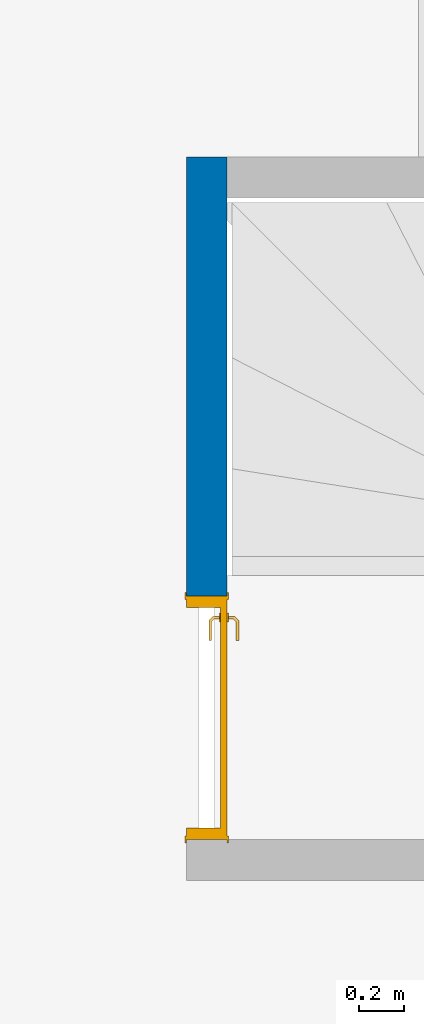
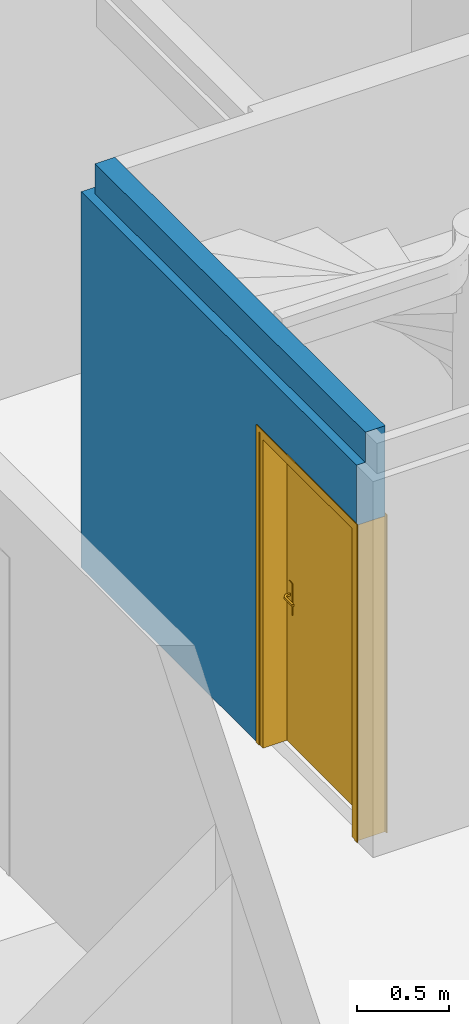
# One storey, part 14 of 24: 1 door, 1 wall, 1 opening.
"""IFC2X3 building model written with IfcOpenShell, lengths in centimetres."""

import ifcopenshell
import ifcopenshell.guid

model = None  # the IFC model being written
_history = None  # IfcOwnerHistory: only IFC2X3 demands one
_inside = {}  # id of a spatial element -> (the spatial element, [elements in it])
_under = {}  # id of a project, library or spatial element -> (it, [spatial elements below it])
_declared = {}  # id of a project -> (the project, [libraries it declares])
_typed = {}  # id of a type object -> (the type object, [elements of that type])
_made_of = {}  # id of a material, layer set ... -> (it, [elements and type objects made of it])


def new_model(schema):
    """Start an empty IFC model of exactly this schema.

    Asked for "IFC4X3", IfcOpenShell would pick the latest addendum, in which some entities
    have other attributes; the version numbers below select the first issue.
    IFC2X3 requires an IfcOwnerHistory on every rooted entity: one is made here for all.
    """
    global model, _history
    if schema == "IFC4X3":
        model = ifcopenshell.file(schema_version=(4, 3, 0, 0))
    else:
        model = ifcopenshell.file(schema=schema)
    _inside.clear()
    _under.clear()
    _declared.clear()
    _typed.clear()
    _made_of.clear()
    _history = None
    if model.schema == "IFC2X3":
        org = make("IfcOrganization", Name="unknown")
        user = make(
            "IfcPersonAndOrganization",
            ThePerson=make("IfcPerson", FamilyName="unknown"),
            TheOrganization=org,
        )
        app = make(
            "IfcApplication",
            ApplicationDeveloper=org,
            Version="unknown",
            ApplicationFullName="unknown",
            ApplicationIdentifier="unknown",
        )
        _history = make(
            "IfcOwnerHistory",
            OwningUser=user,
            OwningApplication=app,
            ChangeAction="ADDED",
            CreationDate=0,
        )
    return model


def make(cls, **values):
    """One entity of the class cls with the attributes given. An attribute that is None is left unset."""
    return model.create_entity(
        cls, **{name: value for name, value in values.items() if value is not None}
    )


def entity(cls, *values):
    """Any entity or typed value of the class cls, its attributes in the order of the schema. None: left unset."""
    e = model.create_entity(cls)
    for i, value in enumerate(values):
        if value is not None:
            e[i] = value
    return e


def rooted(cls, **values):
    """An entity with a GlobalId (a new one), such as an element, a storey or a relation."""
    return make(cls, GlobalId=ifcopenshell.guid.new(), OwnerHistory=_history, **values)


def si_unit(unit_type, name, prefix=None):
    """IfcSIUnit, for example si_unit("LENGTHUNIT", "METRE", prefix="MILLI")."""
    return make("IfcSIUnit", UnitType=unit_type, Prefix=prefix, Name=name)


def converted_unit(unit_type, name, factor, base, dimensions=None, offset=None):
    """IfcConversionBasedUnit, such as the inch: factor (a typed value) times the base unit."""
    return make(
        "IfcConversionBasedUnit"
        if offset is None
        else "IfcConversionBasedUnitWithOffset",
        ConversionOffset=offset,
        Dimensions=None
        if dimensions is None
        else entity("IfcDimensionalExponents", *dimensions),
        UnitType=unit_type,
        Name=name,
        ConversionFactor=make(
            "IfcMeasureWithUnit", ValueComponent=factor, UnitComponent=base
        ),
    )


def derived_unit(unit_type, elements):
    """IfcDerivedUnit: a product of units, each with its exponent."""
    return make(
        "IfcDerivedUnit",
        Elements=[
            make("IfcDerivedUnitElement", Unit=unit, Exponent=power)
            for unit, power in elements
        ],
        UnitType=unit_type,
    )


def assignment(units):
    """IfcUnitAssignment: the units of a project."""
    return None if units is None else make("IfcUnitAssignment", Units=units)


def point(xyz):
    """IfcCartesianPoint."""
    return None if xyz is None else make("IfcCartesianPoint", Coordinates=xyz)


def direction(xyz):
    """IfcDirection."""
    return None if xyz is None else make("IfcDirection", DirectionRatios=xyz)


def frame(location, z_axis=None, x_axis=None):
    """IfcAxis2Placement3D, a coordinate frame: its origin and axes. An axis left out is left unset."""
    return make(
        "IfcAxis2Placement3D",
        Location=point(location),
        Axis=direction(z_axis),
        RefDirection=direction(x_axis),
    )


def frame_2d(location, x_axis=None):
    """IfcAxis2Placement2D, a coordinate frame in the plane: its origin and x axis."""
    return make(
        "IfcAxis2Placement2D", Location=point(location), RefDirection=direction(x_axis)
    )


def origin():
    """The frame at (0, 0, 0) with its axes left unset."""
    return frame((0.0, 0.0, 0.0))


def place(relative_to, where):
    """IfcLocalPlacement: puts the frame where relative to a parent placement (None: the world)."""
    return make(
        "IfcLocalPlacement", PlacementRelTo=relative_to, RelativePlacement=where
    )


def context(
    kind, dimensions, precision=None, world=None, true_north=None, identifier=None
):
    """IfcGeometricRepresentationContext, for example the 3D "Model" context."""
    return make(
        "IfcGeometricRepresentationContext",
        ContextIdentifier=identifier,
        ContextType=kind,
        CoordinateSpaceDimension=dimensions,
        Precision=precision,
        WorldCoordinateSystem=world,
        TrueNorth=true_north,
    )


def subcontext(parent, identifier, kind, view, scale=None):
    """IfcGeometricRepresentationSubContext, for example "Body" below "Model"."""
    return make(
        "IfcGeometricRepresentationSubContext",
        ContextIdentifier=identifier,
        ContextType=kind,
        ParentContext=parent,
        TargetScale=scale,
        TargetView=view,
    )


def project(units=None, contexts=None):
    """IfcProject with its units and contexts."""
    return rooted(
        "IfcProject",
        Name="project",
        RepresentationContexts=contexts,
        UnitsInContext=assignment(units),
    )


def spatial(cls, under=None, at=None, **own):
    """A site, building, storey or space (cls), placed at a placement, below another one or the project."""
    s = rooted(cls, ObjectPlacement=at, **own)
    if under is not None:
        _under.setdefault(under.id(), (under, []))[1].append(s)
    return s


def profile(cls, at=None, kind="AREA", **sizes):
    """A parametric profile (cls). Its sizes go by their IFC names, for example OverallWidth=200.0."""
    return make(cls, ProfileType=kind, Position=at, **sizes)


def rectangle(**sizes):
    """IfcRectangleProfileDef."""
    return profile("IfcRectangleProfileDef", **sizes)


def extrude(swept, where, along, depth):
    """IfcExtrudedAreaSolid: the profile swept, set in the frame where, extruded along a direction by depth."""
    return make(
        "IfcExtrudedAreaSolid",
        SweptArea=swept,
        Position=where,
        ExtrudedDirection=direction(along),
        Depth=depth,
    )


def faces_of(points, faces, orient=None, outer=None):
    """IfcFace entities. A face is a list of loops; a loop is a list of indices into points, from 0.

    orient and outer hold one flag for each loop. By default every Orientation is true, the
    first loop of a face is its IfcFaceOuterBound and the others are IfcFaceBound.
    """
    made = []
    for i, loops in enumerate(faces):
        bounds = []
        for j, loop in enumerate(loops):
            is_outer = j == 0 if outer is None else outer[i][j]
            bounds.append(
                make(
                    "IfcFaceOuterBound" if is_outer else "IfcFaceBound",
                    Bound=make("IfcPolyLoop", Polygon=[points[k] for k in loop]),
                    Orientation=True if orient is None else orient[i][j],
                )
            )
        made.append(make("IfcFace", Bounds=bounds))
    return made


def faceted_brep(points, faces, orient=None, outer=None, voids=None):
    """IfcFacetedBrep: a solid bounded by flat faces; with voids (closed shells), ...WithVoids."""
    shared = [point(p) for p in points]
    hull = make("IfcClosedShell", CfsFaces=faces_of(shared, faces, orient, outer))
    if voids is None:
        return make("IfcFacetedBrep", Outer=hull)
    return make(
        "IfcFacetedBrepWithVoids",
        Outer=hull,
        Voids=[
            make(cls, CfsFaces=faces_of(shared, fs, o, b)) for cls, fs, o, b in voids
        ],
    )


def shape(context_of_items, identifier, shape_type, items):
    """IfcShapeRepresentation: the items that make up one representation, for example the "Body"."""
    return make(
        "IfcShapeRepresentation",
        ContextOfItems=context_of_items,
        RepresentationIdentifier=identifier,
        RepresentationType=shape_type,
        Items=items,
    )


def source(mapping_origin, context_of_items, identifier, shape_type, items):
    """IfcRepresentationMap: a shape defined once, which mapped items show again and again."""
    return make(
        "IfcRepresentationMap",
        MappingOrigin=mapping_origin,
        MappedRepresentation=shape(context_of_items, identifier, shape_type, items),
    )


def transform(
    local_origin,
    x_axis=None,
    y_axis=None,
    z_axis=None,
    scale=None,
    scale2=None,
    scale3=None,
    uniform=True,
):
    """IfcCartesianTransformationOperator3D, or its non-uniform kind. x_axis, y_axis, z_axis: its Axis1, 2, 3."""
    if uniform:
        return make(
            "IfcCartesianTransformationOperator3D",
            Axis1=direction(x_axis),
            Axis2=direction(y_axis),
            LocalOrigin=point(local_origin),
            Scale=scale,
            Axis3=direction(z_axis),
        )
    return make(
        "IfcCartesianTransformationOperator3DnonUniform",
        Axis1=direction(x_axis),
        Axis2=direction(y_axis),
        LocalOrigin=point(local_origin),
        Scale=scale,
        Axis3=direction(z_axis),
        Scale2=scale2,
        Scale3=scale3,
    )


def mapped(mapping_source, mapping_target):
    """IfcMappedItem: shows the shape of a source again, moved by a transform."""
    return make(
        "IfcMappedItem", MappingSource=mapping_source, MappingTarget=mapping_target
    )


def material(Name=None, Category=None):
    """IfcMaterial."""
    return make("IfcMaterial", Name=Name, Category=Category)


def material_list(materials):
    """IfcMaterialList."""
    return make("IfcMaterialList", Materials=materials)


def made_of(thing, what):
    """Note that an element or type object is made of a material, layer set ...; save() writes the relation."""
    if what is not None:
        _made_of.setdefault(what.id(), (what, []))[1].append(thing)
    return thing


def type_object(cls, material=None, **own):
    """A type object (cls), such as IfcWallType, which elements share."""
    return made_of(rooted(cls, **own), material)


def type_shapes(of_type, sources):
    """Give a type object the sources (RepresentationMaps) that its elements show as mapped items."""
    of_type.RepresentationMaps = sources


def element(
    cls,
    number,
    at=None,
    inside=None,
    cuts=None,
    type_object=None,
    material=None,
    context=None,
    identifier="Body",
    shape_type=None,
    held_by="IfcProductDefinitionShape",
    body=None,
    shapes=None,
    **own,
):
    """One element of the class cls, such as IfcWall. Its Tag is "e" and its number.

    at: its placement. inside: the storey or other place that contains it. cuts: it is an
    opening in that element (IfcRelVoidsElement). A single representation is given by context,
    identifier, shape_type and body (its items); several are given by shapes. held_by: the class
    of the entity that holds the representations. save() writes the other relations.
    """
    e = rooted(cls, Tag="e%d" % number, ObjectPlacement=at, **own)
    if body is not None:
        shapes = [shape(context, identifier, shape_type, body)]
    if shapes is not None:
        e.Representation = make(held_by, Representations=shapes)
    if inside is not None:
        _inside.setdefault(inside.id(), (inside, []))[1].append(e)
    if cuts is not None:
        rooted(
            "IfcRelVoidsElement", RelatingBuildingElement=cuts, RelatedOpeningElement=e
        )
    if type_object is not None:
        _typed.setdefault(type_object.id(), (type_object, []))[1].append(e)
    return made_of(e, material)


def fill(opening, filler):
    """IfcRelFillsElement: the door or window that sits in an opening."""
    return rooted(
        "IfcRelFillsElement",
        RelatingOpeningElement=opening,
        RelatedBuildingElement=filler,
    )


def aggregate(whole, parts):
    """IfcRelAggregates: a whole, such as a stair, and the parts it consists of."""
    return rooted("IfcRelAggregates", RelatingObject=whole, RelatedObjects=parts)


def save(model, path):
    """Write the relations noted so far, then the file.

    IfcRelAggregates (storeys below a building ...), IfcRelContainedInSpatialStructure (elements
    in a storey), IfcRelDefinesByType, IfcRelAssociatesMaterial and IfcRelDeclares: one each for
    every whole, place, type object, material and project.
    """
    for whole, parts in _under.values():
        aggregate(whole, parts)
    for where, things in _inside.values():
        rooted(
            "IfcRelContainedInSpatialStructure",
            RelatedElements=things,
            RelatingStructure=where,
        )
    for kind, things in _typed.values():
        rooted("IfcRelDefinesByType", RelatedObjects=things, RelatingType=kind)
    for what, things in _made_of.values():
        rooted("IfcRelAssociatesMaterial", RelatedObjects=things, RelatingMaterial=what)
    for by, libraries in _declared.values():
        rooted("IfcRelDeclares", RelatingContext=by, RelatedDefinitions=libraries)
    model.write(path)


model = new_model("IFC2X3")

# Units and contexts
model_context = context("Model", 3, precision=0.001, world=origin(), true_north=direction((6.12303176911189e-17, 1.0)))
body_context = subcontext(model_context, "Body", "Model", "MODEL_VIEW")
ifc_project = project(units=[si_unit("LENGTHUNIT", "METRE", prefix="CENTI"), si_unit("AREAUNIT", "SQUARE_METRE"), si_unit("VOLUMEUNIT", "CUBIC_METRE"), converted_unit("PLANEANGLEUNIT", "DEGREE", entity("IfcRatioMeasure", 0.0174532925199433), si_unit("PLANEANGLEUNIT", "RADIAN"), dimensions=[0, 0, 0, 0, 0, 0, 0]), si_unit("MASSUNIT", "GRAM", prefix="KILO"), derived_unit("MASSDENSITYUNIT", [(si_unit("MASSUNIT", "GRAM", prefix="KILO"), 1), (si_unit("LENGTHUNIT", "METRE"), -3)]), si_unit("TIMEUNIT", "SECOND"), si_unit("FREQUENCYUNIT", "HERTZ"), si_unit("THERMODYNAMICTEMPERATUREUNIT", "DEGREE_CELSIUS"), derived_unit("THERMALTRANSMITTANCEUNIT", [(si_unit("MASSUNIT", "GRAM", prefix="KILO"), 1), (si_unit("THERMODYNAMICTEMPERATUREUNIT", "KELVIN"), -1), (si_unit("TIMEUNIT", "SECOND"), -3)]), derived_unit("VOLUMETRICFLOWRATEUNIT", [(si_unit("LENGTHUNIT", "METRE"), 3), (si_unit("TIMEUNIT", "SECOND"), -1)]), si_unit("ELECTRICCURRENTUNIT", "AMPERE"), si_unit("ELECTRICVOLTAGEUNIT", "VOLT"), si_unit("POWERUNIT", "WATT"), si_unit("FORCEUNIT", "NEWTON"), si_unit("ILLUMINANCEUNIT", "LUX"), si_unit("LUMINOUSFLUXUNIT", "LUMEN"), si_unit("LUMINOUSINTENSITYUNIT", "CANDELA"), derived_unit("USERDEFINED", [(si_unit("MASSUNIT", "GRAM", prefix="KILO"), -1), (si_unit("LENGTHUNIT", "METRE"), -2), (si_unit("TIMEUNIT", "SECOND"), 3), (si_unit("LUMINOUSFLUXUNIT", "LUMEN"), 1)]), derived_unit("LINEARVELOCITYUNIT", [(si_unit("LENGTHUNIT", "METRE"), 1), (si_unit("TIMEUNIT", "SECOND"), -1)]), si_unit("PRESSUREUNIT", "PASCAL"), derived_unit("USERDEFINED", [(si_unit("LENGTHUNIT", "METRE"), -2), (si_unit("MASSUNIT", "GRAM", prefix="KILO"), 1), (si_unit("TIMEUNIT", "SECOND"), -2)])], contexts=[model_context])

# Site, building, storey
site_placement = place(None, origin())
site = spatial("IfcSite", under=ifc_project, at=site_placement, Name="Default", CompositionType="ELEMENT")
building_placement = place(site_placement, origin())
building = spatial("IfcBuilding", under=site, at=building_placement, Name="CAGE 03", CompositionType="ELEMENT")
storey_placement = place(building_placement, frame((0.0, 0.0, 1150.0)))
storey = spatial("IfcBuildingStorey", under=building, at=storey_placement, Name="R+4", CompositionType="ELEMENT", Elevation=1150.0)

# Wall, opening, door
wall_type = type_object("IfcWallType", Name="Mur de base:premur 18", PredefinedType="NOTDEFINED")
wall_placement = place(storey_placement, frame((10199.3658201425, 4650.66066607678, 0.0), z_axis=(0.0, 0.0, 1.0), x_axis=(0.0, 1.0, 0.0)))
wall = element("IfcWall", 1, at=wall_placement, inside=storey, type_object=wall_type, Name="Mur de base:premur 18", ObjectType="Mur de base:premur 18", context=body_context, shape_type="Brep", body=[
    faceted_brep([(107.0, -9.0, 0.0), (282.0, -9.0, 0.0), (294.500000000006, -9.0, 0.0), (300.0, -9.0, 0.0), (300.0, -9.0, 250.0), (294.500000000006, -9.0, 250.0), (294.500000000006, -9.0, 270.0), (282.0, -9.0, 270.0), (107.0, -9.0, 270.0), (0.0, -9.0, 270.0), (0.0, -9.0, 210.0), (107.0, -9.0, 210.0), (300.0, 9.0, 0.0), (107.0, 9.0, 0.0), (107.0, 9.0, 210.0), (0.0, 9.0, 210.0), (0.0, 9.0, 250.0), (300.0, 9.0, 250.0), (294.500000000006, 3.49999999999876, 270.0), (0.0, 3.49999999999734, 270.0), (0.0, -3.49999999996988, 270.0), (0.0, 3.49999999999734, 250.0), (294.500000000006, 3.49999999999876, 250.0)], [[[0, 1, 2, 3, 4, 5, 6, 7, 8, 9, 10, 11]], [[12, 13, 14, 15, 16, 17]], [[12, 3, 2, 1, 0, 13]], [[9, 8, 7, 6, 18, 19, 20]], [[3, 12, 17, 4]], [[10, 9, 20, 19, 21, 16, 15]], [[14, 11, 10, 15]], [[11, 14, 13, 0]], [[21, 22, 5, 4, 17, 16]], [[22, 18, 6, 5]], [[18, 22, 21, 19]]]),
])
opening_placement = place(wall_placement, frame((107.0, 9.0, 0.0)))
opening = element("IfcOpeningElement", 2, at=opening_placement, cuts=wall, Name="Int. Simple:HB103:1", ObjectType="Opening", context=body_context, shape_type="SweptSolid", body=[
    extrude(rectangle(XDim=210.000000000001, YDim=107.0, at=frame_2d((105.000000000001, 53.4999999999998), x_axis=(1.0, 0.0))), frame((0.0, 0.0, 0.0), z_axis=(0.0, -1.0, 0.0), x_axis=(0.0, 0.0, 1.0)), (0.0, 0.0, 1.0), 18.0),
])
ifc_material_1 = material(Name="Finition Peinture - Blanc satiné")
ifc_material_2 = material(Name="Bois - Panneau de porte")
ifc_material_3 = material(Name="Bois - Cadre de porte")
ifc_material_list_1 = material_list([ifc_material_1, ifc_material_2, ifc_material_3])
ifc_material_list_2 = material_list([ifc_material_1, ifc_material_2, ifc_material_3])
door_style = type_object("IfcDoorStyle", Name="HB103", ConstructionType="NOTDEFINED", OperationType="SINGLE_SWING_RIGHT", ParameterTakesPrecedence=False, Sizeable=False, material=ifc_material_list_2)
shared_shape = source(origin(), body_context, "Body", "Brep", [
    faceted_brep([(106.500000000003, -0.500000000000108, 87.0), (106.500000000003, -0.500000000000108, 108.0), (105.535276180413, -0.500000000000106, 108.399601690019), (104.500000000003, -0.500000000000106, 108.535898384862), (103.464723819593, -0.500000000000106, 108.399601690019), (102.500000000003, -0.500000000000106, 108.0), (102.500000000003, -0.500000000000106, 87.0), (103.464723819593, -0.500000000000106, 86.6003983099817), (104.500000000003, -0.500000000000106, 86.464101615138), (105.535276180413, -0.500000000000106, 86.6003983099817), (106.500000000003, 0.0, 108.0), (106.500000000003, 0.0, 87.0), (105.535276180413, 0.0, 86.6003983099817), (104.500000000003, 0.0, 86.464101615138), (103.464723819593, 0.0, 86.6003983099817), (102.500000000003, 0.0, 87.0), (102.500000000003, 0.0, 108.0), (103.464723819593, 0.0, 108.399601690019), (104.500000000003, 0.0, 108.535898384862), (105.535276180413, 0.0, 108.399601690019)], [[[0, 1, 2, 3, 4, 5, 6, 7, 8, 9]], [[10, 11, 12, 13, 14, 15, 16, 17, 18, 19]], [[9, 12, 11, 0]], [[8, 13, 12, 9]], [[7, 14, 13, 8]], [[7, 6, 15, 14]], [[15, 6, 5, 16]], [[4, 17, 16, 5]], [[3, 18, 17, 4]], [[2, 19, 18, 3]], [[2, 1, 10, 19]], [[11, 10, 1, 0]]]),
    faceted_brep([(106.500000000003, 3.0, 87.0), (106.500000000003, 3.0, 108.0), (105.535276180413, 3.0, 108.399601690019), (104.500000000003, 3.0, 108.535898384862), (103.464723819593, 3.0, 108.399601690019), (102.500000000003, 3.0, 108.0), (102.500000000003, 3.0, 87.0), (103.464723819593, 3.0, 86.6003983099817), (104.500000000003, 3.0, 86.464101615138), (105.535276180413, 3.0, 86.6003983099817), (104.500000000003, 3.49999999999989, 108.535898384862), (105.535276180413, 3.49999999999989, 108.399601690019), (106.500000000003, 3.49999999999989, 108.0), (106.500000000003, 3.49999999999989, 87.0), (105.535276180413, 3.49999999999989, 86.6003983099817), (104.500000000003, 3.49999999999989, 86.464101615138), (103.464723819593, 3.49999999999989, 86.6003983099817), (102.500000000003, 3.49999999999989, 87.0), (102.500000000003, 3.49999999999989, 108.0), (103.464723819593, 3.49999999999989, 108.399601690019)], [[[0, 1, 2, 3, 4, 5, 6, 7, 8, 9]], [[10, 11, 12, 13, 14, 15, 16, 17, 18, 19]], [[4, 19, 18, 5]], [[3, 10, 19, 4]], [[2, 11, 10, 3]], [[2, 1, 12, 11]], [[13, 12, 1, 0]], [[9, 14, 13, 0]], [[8, 15, 14, 9]], [[7, 16, 15, 8]], [[7, 6, 17, 16]], [[17, 6, 5, 18]]]),
    faceted_brep([(104.297470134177, -0.500000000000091, 100.778044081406), (104.702529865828, -0.500000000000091, 100.778044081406), (105.100000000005, -0.500000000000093, 100.699999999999), (105.100000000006, -0.500000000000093, 99.299999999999), (104.702529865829, -0.500000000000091, 99.2219559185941), (104.297470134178, -0.500000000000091, 99.2219559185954), (103.9, -0.500000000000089, 99.3000000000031), (103.9, -0.500000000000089, 100.7), (104.702529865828, -3.1004575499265, 100.778044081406), (105.100000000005, -3.26509507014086, 100.7), (104.297470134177, -2.93267631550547, 100.778044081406), (102.92986024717, -4.30028620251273, 100.778044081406), (103.097641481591, -4.70534593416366, 100.778044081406), (103.9, -2.76803879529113, 100.7), (103.9, -2.76803879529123, 99.3000000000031), (104.297470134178, -2.93267631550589, 99.2219559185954), (104.702529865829, -3.10045754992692, 99.2219559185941), (103.097641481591, -4.70534593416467, 99.2219559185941), (102.92986024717, -4.30028620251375, 99.2219559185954), (105.100000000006, -3.26509507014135, 99.299999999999), (103.262279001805, -5.10281606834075, 100.7), (102.765222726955, -3.90281606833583, 100.7), (102.765222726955, -3.90281606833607, 99.3000000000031), (103.262279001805, -5.10281606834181, 99.299999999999), (94.4981359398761, -5.1028160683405, 100.7), (94.4981359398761, -4.7053459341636, 100.778044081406), (94.4981359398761, -4.30028620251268, 100.778044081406), (94.4981359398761, -3.90281606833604, 100.699999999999), (94.4981359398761, -3.90281606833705, 99.3000000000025), (94.4981359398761, -4.30028620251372, 99.2219559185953), (94.4981359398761, -4.70534593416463, 99.2219559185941), (94.4981359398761, -5.10281606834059, 99.2999999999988), (98.7139980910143, -4.50281606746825, 100.78786867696), (99.2692302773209, -5.10281606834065, 100.7), (98.6316793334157, -3.90281606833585, 100.7), (98.6316793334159, -3.90281606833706, 99.3000000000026), (98.7139981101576, -4.50281607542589, 99.2121313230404), (99.2692299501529, -5.10281606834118, 99.2999999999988)], [[[0, 1, 2, 3, 4, 5, 6, 7]], [[2, 1, 8, 9]], [[1, 0, 10, 11, 12, 8]], [[0, 7, 13, 10]], [[14, 13, 7, 6]], [[5, 15, 14, 6]], [[5, 4, 16, 17, 18, 15]], [[3, 19, 16, 4]], [[9, 19, 3, 2]], [[9, 8, 12, 20]], [[10, 13, 21, 11]], [[22, 21, 13, 14]], [[14, 15, 18, 22]], [[16, 19, 23, 17]], [[20, 23, 19, 9]], [[24, 25, 26, 27, 28, 29, 30, 31]], [[32, 25, 33]], [[33, 25, 24]], [[33, 20, 12]], [[11, 34, 32]], [[34, 11, 21]], [[27, 26, 34]], [[32, 26, 25]], [[32, 34, 26]], [[32, 33, 12]], [[11, 32, 12]], [[21, 22, 35, 28, 27, 34]], [[36, 29, 35]], [[30, 36, 37]], [[18, 35, 22]], [[29, 28, 35]], [[30, 37, 31]], [[37, 17, 23]], [[36, 17, 37]], [[36, 18, 17]], [[36, 35, 18]], [[29, 36, 30]], [[23, 20, 33, 24, 31, 37]]]),
    faceted_brep([(104.297470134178, 3.49999999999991, 99.2219559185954), (104.702529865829, 3.49999999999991, 99.2219559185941), (105.100000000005, 3.4999999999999, 99.2999999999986), (105.100000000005, 3.4999999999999, 100.7), (104.702529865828, 3.49999999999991, 100.778044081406), (104.297470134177, 3.49999999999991, 100.778044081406), (103.9, 3.49999999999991, 100.7), (103.900000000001, 3.49999999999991, 99.3000000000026), (103.9, 5.74852045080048, 100.7), (103.9, 5.74852045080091, 99.3000000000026), (104.297470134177, 5.91315797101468, 100.778044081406), (104.702529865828, 6.08093920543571, 100.778044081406), (103.083890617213, 7.69957845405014, 100.778044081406), (102.916109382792, 7.29451872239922, 100.778044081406), (105.100000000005, 6.24557672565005, 100.7), (105.100000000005, 6.2455767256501, 99.2999999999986), (104.702529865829, 6.08093920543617, 99.2219559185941), (104.297470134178, 5.91315797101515, 99.2219559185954), (102.916109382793, 7.29451872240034, 99.2219559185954), (103.083890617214, 7.69957845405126, 99.2219559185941), (102.751471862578, 6.89704858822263, 100.7), (102.751471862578, 6.89704858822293, 99.3000000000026), (103.248528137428, 8.09704858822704, 100.7), (103.248528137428, 8.09704858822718, 99.2999999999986), (94.4954216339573, 7.29451872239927, 100.778044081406), (94.4954216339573, 7.6995784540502, 100.778044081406), (94.4954216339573, 8.0970485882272, 100.7), (94.4954216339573, 8.09704858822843, 99.299999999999), (94.4954216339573, 7.6995784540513, 99.2219559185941), (94.4954216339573, 7.29451872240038, 99.2219559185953), (94.4954216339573, 6.89704858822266, 99.3000000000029), (94.4954216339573, 6.89704858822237, 100.7), (98.6234467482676, 6.89704858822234, 100.7), (98.6234479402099, 6.89704858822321, 99.3000000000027), (98.7057655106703, 7.4970485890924, 100.78786867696), (99.255479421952, 8.09704858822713, 100.7), (99.2554794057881, 8.09704858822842, 99.299999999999), (98.7057654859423, 7.49704858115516, 99.2121313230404)], [[[0, 1, 2, 3, 4, 5, 6, 7]], [[8, 9, 7, 6]], [[5, 10, 8, 6]], [[5, 4, 11, 12, 13, 10]], [[3, 14, 11, 4]], [[14, 3, 2, 15]], [[2, 1, 16, 15]], [[1, 0, 17, 18, 19, 16]], [[0, 7, 9, 17]], [[20, 21, 9, 8]], [[8, 10, 13, 20]], [[14, 22, 12, 11]], [[23, 22, 14, 15]], [[15, 16, 19, 23]], [[17, 9, 21, 18]], [[24, 25, 26, 27, 28, 29, 30, 31]], [[20, 32, 31, 30, 33, 21]], [[34, 24, 32]], [[25, 34, 35]], [[13, 32, 20]], [[24, 31, 32]], [[25, 35, 26]], [[35, 12, 22]], [[34, 12, 35]], [[34, 13, 12]], [[34, 32, 13]], [[24, 34, 25]], [[22, 23, 36, 27, 26, 35]], [[37, 28, 36]], [[36, 28, 27]], [[36, 23, 19]], [[18, 33, 37]], [[33, 18, 21]], [[30, 29, 33]], [[37, 29, 28]], [[37, 33, 29]], [[37, 36, 19]], [[18, 37, 19]]]),
    faceted_brep([(110.500000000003, 3.0, 206.5), (110.500000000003, 3.0, 0.0), (10.5000000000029, 3.0, 0.0), (10.5000000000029, 3.0, 206.5), (110.500000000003, 0.0, 206.5), (10.5000000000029, 0.0, 206.5), (10.5000000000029, 0.0, 0.0), (110.500000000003, 0.0, 0.0)], [[[0, 1, 2, 3]], [[4, 5, 6, 7]], [[3, 5, 4, 0]], [[2, 6, 5, 3]], [[1, 7, 6, 2]], [[0, 4, 7, 1]]]),
    faceted_brep([(114.0, 0.0, 0.0), (110.500000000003, 0.0, 0.0), (110.500000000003, 3.0, 0.0), (109.0, 3.0, 0.0), (109.0, 18.0, 0.0), (114.0, 18.0, 0.0), (114.0, 18.0, 210.0), (114.0, 0.0, 210.0), (109.0, 18.0, 205.0), (12.0, 18.0, 205.0), (12.0, 18.0, 0.0), (7.0, 18.0, 0.0), (7.0, 18.0, 210.0), (109.0, 3.0, 205.0), (110.500000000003, 3.0, 206.5), (10.5000000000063, 3.0, 206.5), (10.5000000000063, 3.0, 0.0), (12.0, 3.0, 0.0), (12.0, 3.0, 205.0), (110.500000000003, 0.0, 206.5), (7.0, 0.0, 210.0), (7.0, 0.0, 0.0), (10.5000000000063, 0.0, 0.0), (10.5000000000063, 0.0, 206.5)], [[[0, 1, 2, 3, 4, 5]], [[5, 6, 7, 0]], [[4, 8, 9, 10, 11, 12, 6, 5]], [[3, 13, 8, 4]], [[2, 14, 15, 16, 17, 18, 13, 3]], [[1, 19, 14, 2]], [[0, 7, 20, 21, 22, 23, 19, 1]], [[12, 11, 21, 20]], [[21, 11, 10, 17, 16, 22]], [[18, 17, 10, 9]], [[23, 22, 16, 15]], [[6, 12, 20, 7]], [[13, 18, 9, 8]], [[19, 23, 15, 14]]]),
    faceted_brep([(112.500000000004, 18.0, 0.0), (112.500000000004, 18.5000000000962, 0.0), (115.500000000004, 18.5000000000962, 0.0), (115.500000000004, 18.0, 0.0), (115.500000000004, 18.0, 211.500000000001), (5.50000000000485, 18.0, 211.500000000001), (5.50000000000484, 18.0, 0.0), (8.50000000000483, 18.0, 0.0), (8.50000000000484, 18.0, 208.500000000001), (112.500000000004, 18.0, 208.500000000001), (115.500000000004, 18.5000000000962, 211.500000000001), (112.500000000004, 18.5000000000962, 208.500000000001), (8.50000000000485, 18.5000000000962, 208.500000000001), (8.50000000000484, 18.5000000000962, 0.0), (5.50000000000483, 18.5000000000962, 0.0), (5.50000000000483, 18.5000000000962, 211.500000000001)], [[[0, 1, 2, 3]], [[3, 4, 5, 6, 7, 8, 9, 0]], [[2, 10, 4, 3]], [[1, 11, 12, 13, 14, 15, 10, 2]], [[0, 9, 11, 1]], [[7, 6, 14, 13]], [[8, 7, 13, 12]], [[15, 14, 6, 5]], [[10, 15, 5, 4]], [[9, 8, 12, 11]]]),
    faceted_brep([(115.500000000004, -0.5, 0.0), (115.500000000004, -0.5, 211.500000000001), (5.50000000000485, -0.5, 211.500000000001), (5.50000000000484, -0.5, 0.0), (8.50000000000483, -0.5, 0.0), (8.50000000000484, -0.5, 208.500000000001), (112.500000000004, -0.5, 208.500000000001), (112.500000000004, -0.5, 0.0), (115.500000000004, 0.0, 0.0), (115.500000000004, 0.0, 211.500000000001), (112.500000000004, 0.0, 0.0), (112.500000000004, 0.0, 208.500000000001), (8.50000000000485, 0.0, 208.500000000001), (8.50000000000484, 0.0, 0.0), (5.50000000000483, 0.0, 0.0), (5.50000000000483, 0.0, 211.500000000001)], [[[0, 1, 2, 3, 4, 5, 6, 7]], [[8, 9, 1, 0]], [[10, 11, 12, 13, 14, 15, 9, 8]], [[7, 6, 11, 10]], [[5, 4, 13, 12]], [[15, 14, 3, 2]], [[9, 15, 2, 1]], [[6, 5, 12, 11]], [[4, 3, 14, 13]], [[7, 10, 8, 0]]]),
])
type_shapes(door_style, [shared_shape])
door_placement = place(opening_placement, frame((-114.0, -18.0, 0.0)))
door = element("IfcDoor", 3, at=door_placement, inside=storey, type_object=door_style, material=ifc_material_list_1, Name="Int. Simple:HB103", ObjectType="HB103", OverallHeight=210.000000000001, OverallWidth=107.0, context=body_context, shape_type="MappedRepresentation", body=[
    mapped(shared_shape, transform((0.0, 0.0, 0.0), scale=1.0)),
])
fill(opening, door)

save(model, "model.ifc")
